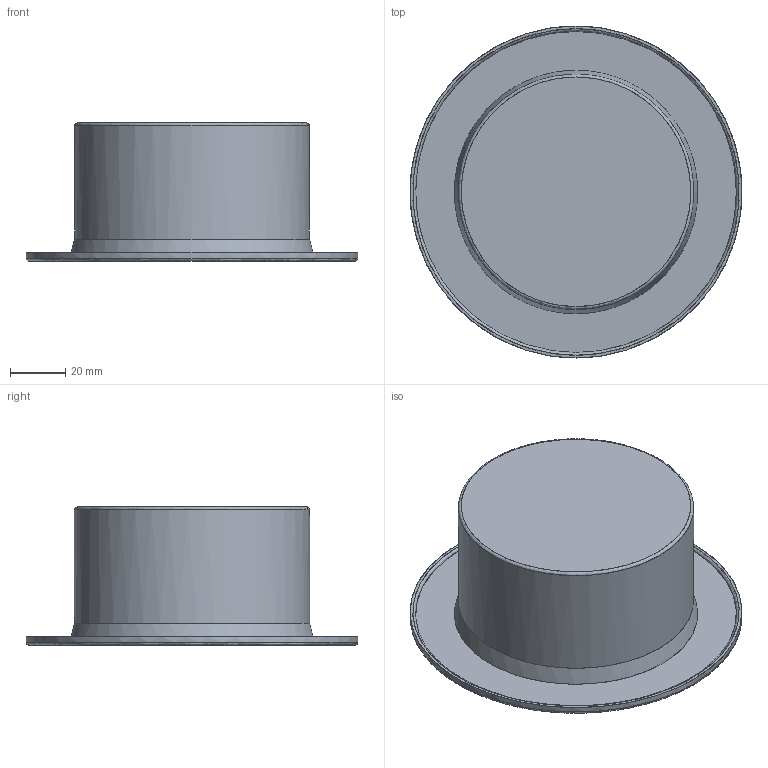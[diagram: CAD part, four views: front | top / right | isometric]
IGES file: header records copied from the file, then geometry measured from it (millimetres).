
Start section: SolidWorks IGES file using NURBS representation for surfaces
Global section: file name: Z:\Modele 3D_WWW\_Commercial\CL-KEA-LED\CL-KEA-LED-20W-8772-8773\CL-KEA-LED-20W-8772-8773.IGS; native system: SolidWorks 2021; preprocessor: SolidWorks 2021; author: gabriela.tworek; date: 220218.123939; units: millimetre
Bounding box: 119.93 x 120 x 50 mm (x, y, z)
Surface area: 65762.3 mm2 (no closed solid volume)
Topology: 0 solids, 0 shells, 24 faces, 103 edges, 88 vertices
Faces by surface type: bspline 24
